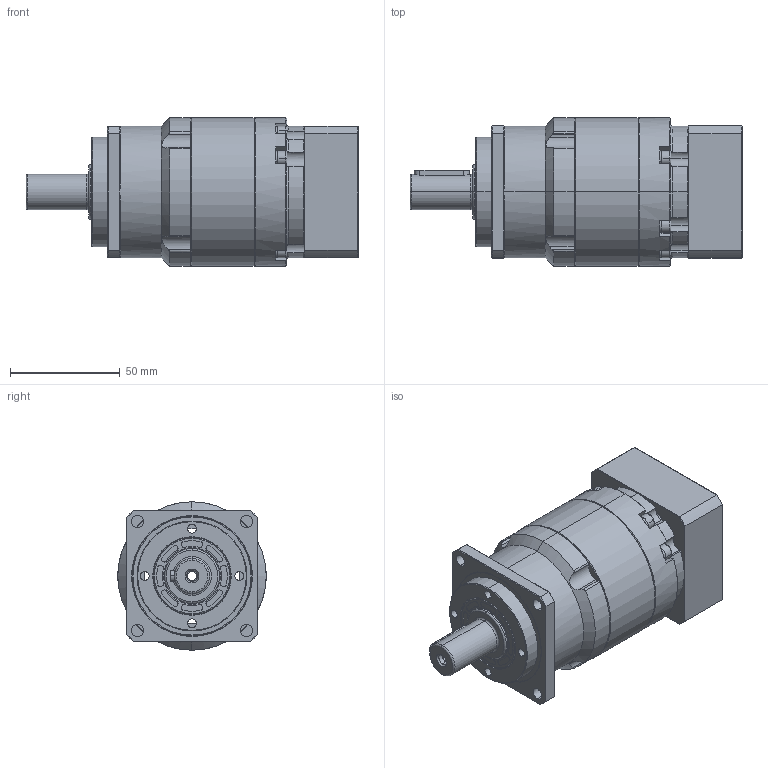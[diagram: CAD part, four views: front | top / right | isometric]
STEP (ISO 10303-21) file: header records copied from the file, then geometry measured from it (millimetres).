
FILE_DESCRIPTION (( 'STEP AP203' ), '1' );
FILE_NAME ('AKS60-10X5-50-14-35-M5-70.STEP', '2020-08-11T07:31:51', ( '微软用户' ), ( '微软中国' ), 'SwSTEP 2.0', 'SolidWorks 2008', '' );
FILE_SCHEMA (( 'CONFIG_CONTROL_DESIGN' ));
Length unit declared in the file: millimetre
Products named in the file (1): AKS60-10X5-50-14-35-M5-70
Bounding box: 151 x 67.5 x 67.5 mm (x, y, z)
Surface area: 55534.8 mm2 (no closed solid volume)
Topology: 0 solids, 39 shells, 586 faces, 1742 edges, 1175 vertices
Faces by surface type: cylinder 224, plane 188, cone 135, torus 39
Entity records: 20174 total; most frequent: CARTESIAN_POINT 4220, DIRECTION 3564, ORIENTED_EDGE 2963, EDGE_CURVE 1726, AXIS2_PLACEMENT_3D 1401, VERTEX_POINT 1175, CIRCLE 814, LINE 762
